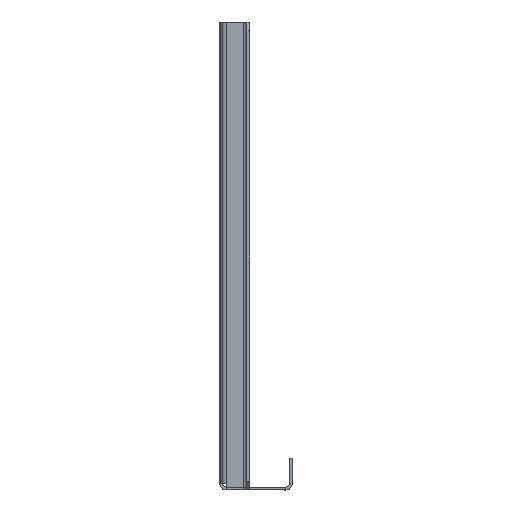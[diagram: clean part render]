
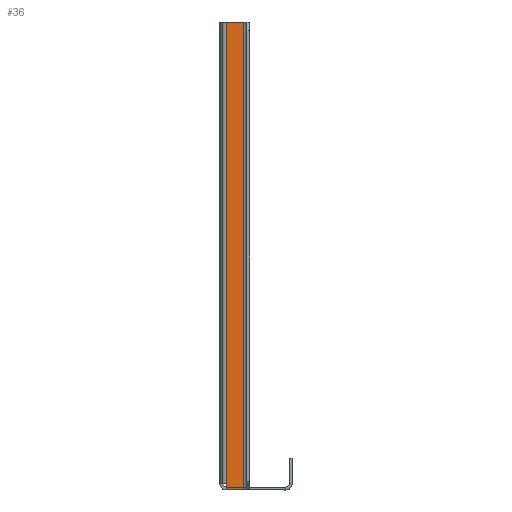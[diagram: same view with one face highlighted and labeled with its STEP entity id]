
A CAD part, left-side view. The second image highlights one B-rep face of the part: STEP entity #36.
In plain terms, the highlighted planar face has unit normal (-1, 0, 0).
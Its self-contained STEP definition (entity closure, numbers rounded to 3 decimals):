
#27 = LINE ( 'NONE', #2699, #1717 ) ;
#36 = ADVANCED_FACE ( 'NONE', ( #604 ), #1169, .T. ) ;
#113 = CARTESIAN_POINT ( 'NONE',  ( -414., 0., 110. ) ) ;
#185 = ORIENTED_EDGE ( 'NONE', *, *, #978, .T. ) ;
#227 = VERTEX_POINT ( 'NONE', #3298 ) ;
#244 = CARTESIAN_POINT ( 'NONE',  ( -414., 0., 110. ) ) ;
#322 = EDGE_CURVE ( 'NONE', #470, #3008, #1043, .T. ) ;
#355 = CARTESIAN_POINT ( 'NONE',  ( -414., -11.1, 110. ) ) ;
#434 = DIRECTION ( 'NONE',  ( 0., 1., 0. ) ) ;
#470 = VERTEX_POINT ( 'NONE', #2874 ) ;
#541 = CARTESIAN_POINT ( 'NONE',  ( -414., -2.9, 110. ) ) ;
#604 = FACE_OUTER_BOUND ( 'NONE', #3239, .T. ) ;
#835 = EDGE_CURVE ( 'NONE', #2327, #470, #2633, .T. ) ;
#897 = CARTESIAN_POINT ( 'NONE',  ( -414., -2.9, -110. ) ) ;
#903 = DIRECTION ( 'NONE',  ( 0., 0., -1. ) ) ;
#978 = EDGE_CURVE ( 'NONE', #2327, #3419, #998, .T. ) ;
#998 = LINE ( 'NONE', #113, #3490 ) ;
#1043 = LINE ( 'NONE', #3097, #1658 ) ;
#1110 = DIRECTION ( 'NONE',  ( -1., 0., 0. ) ) ;
#1169 = PLANE ( 'NONE',  #2462 ) ;
#1408 = ORIENTED_EDGE ( 'NONE', *, *, #835, .F. ) ;
#1449 = VECTOR ( 'NONE', #903, 1000. ) ;
#1658 = VECTOR ( 'NONE', #434, 1000. ) ;
#1717 = VECTOR ( 'NONE', #2117, 1000. ) ;
#1727 = DIRECTION ( 'NONE',  ( 0., 0., -1. ) ) ;
#1738 = EDGE_CURVE ( 'NONE', #3419, #227, #3509, .T. ) ;
#2085 = ORIENTED_EDGE ( 'NONE', *, *, #322, .F. ) ;
#2117 = DIRECTION ( 'NONE',  ( 0., 0., -1. ) ) ;
#2290 = DIRECTION ( 'NONE',  ( 0., 0., 1. ) ) ;
#2327 = VERTEX_POINT ( 'NONE', #355 ) ;
#2462 = AXIS2_PLACEMENT_3D ( 'NONE', #244, #1110, #2290 ) ;
#2633 = LINE ( 'NONE', #2971, #1449 ) ;
#2699 = CARTESIAN_POINT ( 'NONE',  ( -414., -2.9, 110. ) ) ;
#2792 = ORIENTED_EDGE ( 'NONE', *, *, #3366, .T. ) ;
#2874 = CARTESIAN_POINT ( 'NONE',  ( -414., -11.1, -110. ) ) ;
#2971 = CARTESIAN_POINT ( 'NONE',  ( -414., -11.1, 110. ) ) ;
#3008 = VERTEX_POINT ( 'NONE', #897 ) ;
#3097 = CARTESIAN_POINT ( 'NONE',  ( -414., 0., -110. ) ) ;
#3239 = EDGE_LOOP ( 'NONE', ( #2085, #1408, #185, #3868, #2792 ) ) ;
#3298 = CARTESIAN_POINT ( 'NONE',  ( -414., -2.9, -107.1 ) ) ;
#3345 = DIRECTION ( 'NONE',  ( 0., 1., 0. ) ) ;
#3366 = EDGE_CURVE ( 'NONE', #227, #3008, #27, .T. ) ;
#3419 = VERTEX_POINT ( 'NONE', #3546 ) ;
#3439 = VECTOR ( 'NONE', #1727, 1000. ) ;
#3490 = VECTOR ( 'NONE', #3345, 1000. ) ;
#3509 = LINE ( 'NONE', #541, #3439 ) ;
#3546 = CARTESIAN_POINT ( 'NONE',  ( -414., -2.9, 110. ) ) ;
#3868 = ORIENTED_EDGE ( 'NONE', *, *, #1738, .T. ) ;
